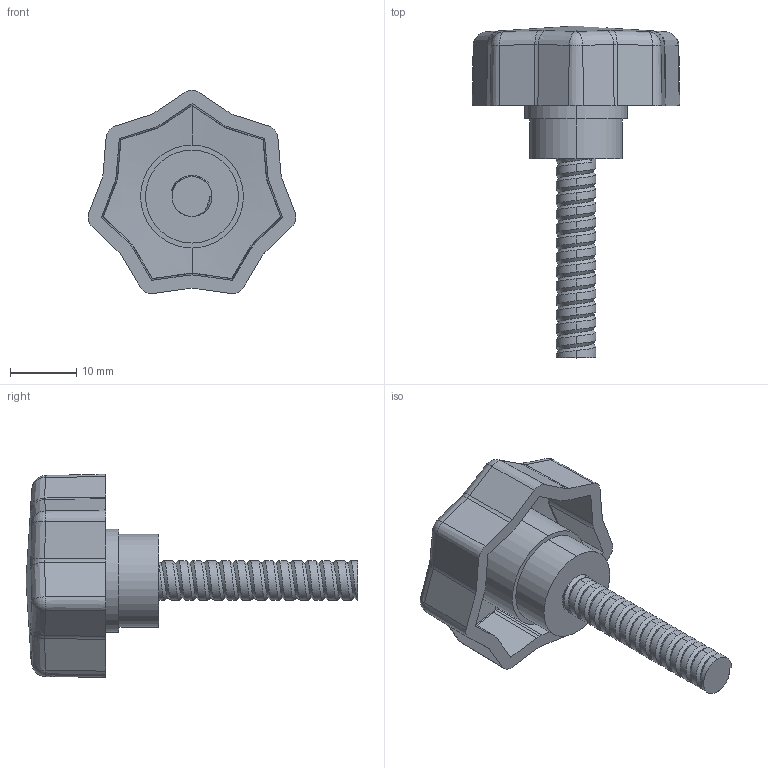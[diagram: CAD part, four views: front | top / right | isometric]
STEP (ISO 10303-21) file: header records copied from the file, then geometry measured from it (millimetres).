
FILE_DESCRIPTION (( 'STEP AP203' ), '1' );
FILE_NAME ('AP-1050-32-M6-30.STEP', '2015-11-23T11:51:14', ( '' ), ( '' ), 'SwSTEP 2.0', 'SolidWorks 2014', '' );
FILE_SCHEMA (( 'CONFIG_CONTROL_DESIGN' ));
Length unit declared in the file: millimetre
Products named in the file (1): AP-1050-32-M6-30
Bounding box: 31.3 x 50 x 30.61 mm (x, y, z)
Volume: 6855.6 mm3; surface area: 4572.5 mm2
Topology: 1 solids, 1 shells, 147 faces, 375 edges, 224 vertices
Faces by surface type: cylinder 51, bspline 51, plane 34, cone 11
Entity records: 7994 total; most frequent: CARTESIAN_POINT 5064, ORIENTED_EDGE 732, DIRECTION 416, EDGE_CURVE 366, VERTEX_POINT 224, EDGE_LOOP 150, ADVANCED_FACE 147, FACE_OUTER_BOUND 147
